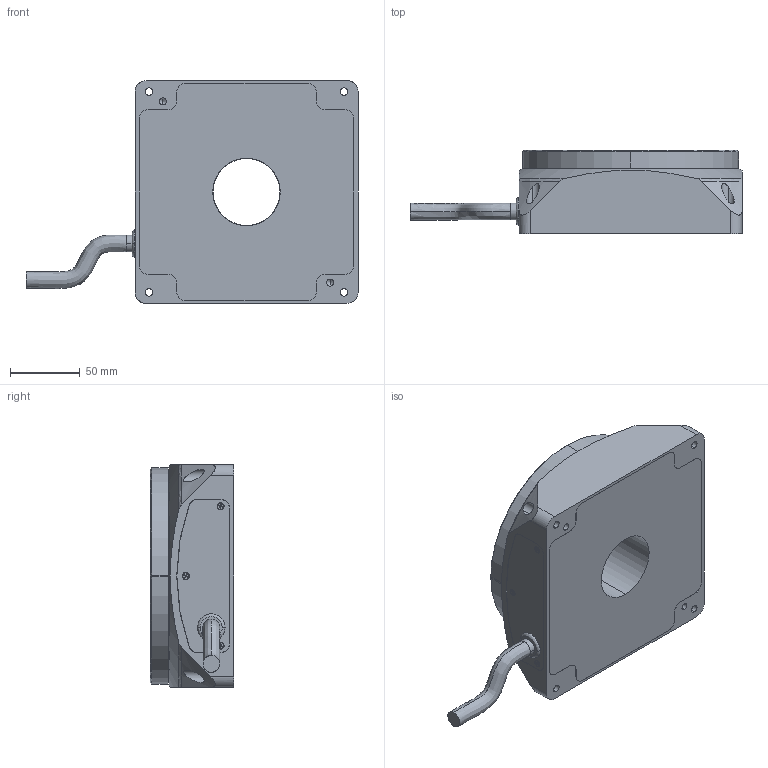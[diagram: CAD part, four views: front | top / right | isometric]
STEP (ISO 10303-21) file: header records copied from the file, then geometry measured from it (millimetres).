
FILE_DESCRIPTION (( 'STEP AP214' ), '1' );
FILE_NAME ('1-5017-0160A-PDR160C_STAGE.STEP', '2018-10-03T21:44:06', ( '' ), ( '' ), 'SwSTEP 2.0', 'SolidWorks 2016', '' );
FILE_SCHEMA (( 'AUTOMOTIVE_DESIGN' ));
Length unit declared in the file: millimetre
Products named in the file (1): 1-5017-0160A-PDR160C_STAGE
Bounding box: 238.23 x 60 x 160 mm (x, y, z)
Volume: 1291686.6 mm3; surface area: 101483.7 mm2
Topology: 1 solids, 8 shells, 280 faces, 646 edges, 386 vertices
Faces by surface type: plane 122, cylinder 94, cone 44, bspline 20
Entity records: 8880 total; most frequent: CARTESIAN_POINT 2594, DIRECTION 1340, ORIENTED_EDGE 1248, EDGE_CURVE 624, AXIS2_PLACEMENT_3D 506, VERTEX_POINT 386, LINE 328, VECTOR 328
